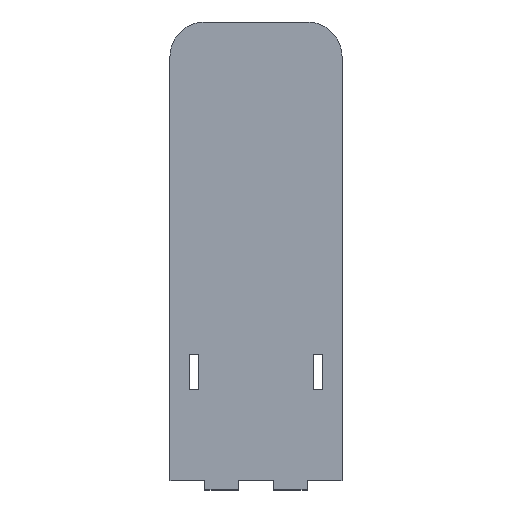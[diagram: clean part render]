
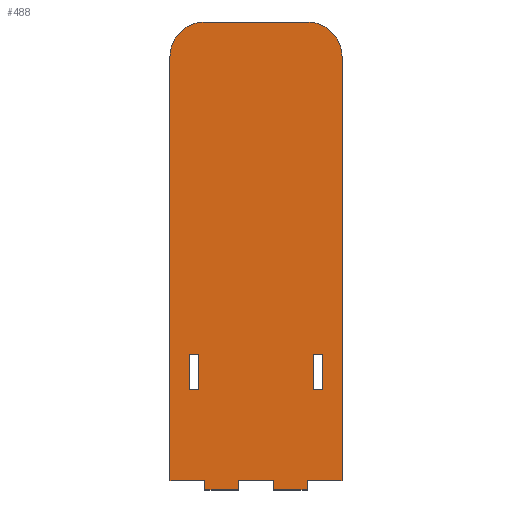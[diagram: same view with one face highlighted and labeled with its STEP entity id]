
A CAD part, top view. The second image highlights one B-rep face of the part: STEP entity #488.
In plain terms, the highlighted planar face has unit normal (0, 0, 1).
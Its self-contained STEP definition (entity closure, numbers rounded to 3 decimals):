
#17=FACE_BOUND('',#75,.T.);
#18=FACE_BOUND('',#76,.T.);
#19=CIRCLE('',#521,30.);
#22=CIRCLE('',#527,30.);
#48=FACE_OUTER_BOUND('',#74,.T.);
#74=EDGE_LOOP('',(#421,#422,#423,#424,#425,#426,#427,#428,#429,#430,#431,
#432,#433,#434));
#75=EDGE_LOOP('',(#435,#436,#437,#438));
#76=EDGE_LOOP('',(#439,#440,#441,#442));
#77=LINE('',#664,#139);
#81=LINE('',#672,#143);
#84=LINE('',#678,#146);
#87=LINE('',#683,#149);
#89=LINE('',#688,#151);
#93=LINE('',#696,#155);
#96=LINE('',#702,#158);
#99=LINE('',#707,#161);
#105=LINE('',#723,#167);
#119=LINE('',#756,#181);
#121=LINE('',#759,#183);
#122=LINE('',#762,#184);
#124=LINE('',#766,#186);
#126=LINE('',#770,#188);
#128=LINE('',#774,#190);
#130=LINE('',#778,#192);
#132=LINE('',#782,#194);
#134=LINE('',#786,#196);
#136=LINE('',#790,#198);
#138=LINE('',#793,#200);
#139=VECTOR('',#544,10.);
#143=VECTOR('',#550,10.);
#146=VECTOR('',#555,10.);
#149=VECTOR('',#560,10.);
#151=VECTOR('',#564,10.);
#155=VECTOR('',#570,10.);
#158=VECTOR('',#575,10.);
#161=VECTOR('',#580,10.);
#167=VECTOR('',#594,10.);
#181=VECTOR('',#618,10.);
#183=VECTOR('',#622,10.);
#184=VECTOR('',#625,10.);
#186=VECTOR('',#629,10.);
#188=VECTOR('',#633,10.);
#190=VECTOR('',#637,10.);
#192=VECTOR('',#641,10.);
#194=VECTOR('',#645,10.);
#196=VECTOR('',#649,10.);
#198=VECTOR('',#653,10.);
#200=VECTOR('',#657,10.);
#201=VERTEX_POINT('',#662);
#202=VERTEX_POINT('',#663);
#205=VERTEX_POINT('',#671);
#207=VERTEX_POINT('',#677);
#209=VERTEX_POINT('',#686);
#210=VERTEX_POINT('',#687);
#213=VERTEX_POINT('',#695);
#215=VERTEX_POINT('',#701);
#217=VERTEX_POINT('',#710);
#218=VERTEX_POINT('',#711);
#222=VERTEX_POINT('',#721);
#234=VERTEX_POINT('',#749);
#235=VERTEX_POINT('',#750);
#236=VERTEX_POINT('',#755);
#237=VERTEX_POINT('',#761);
#238=VERTEX_POINT('',#765);
#239=VERTEX_POINT('',#769);
#240=VERTEX_POINT('',#773);
#241=VERTEX_POINT('',#777);
#242=VERTEX_POINT('',#781);
#243=VERTEX_POINT('',#785);
#244=VERTEX_POINT('',#789);
#245=EDGE_CURVE('',#201,#202,#77,.T.);
#249=EDGE_CURVE('',#205,#201,#81,.T.);
#252=EDGE_CURVE('',#207,#205,#84,.T.);
#255=EDGE_CURVE('',#202,#207,#87,.T.);
#257=EDGE_CURVE('',#209,#210,#89,.T.);
#261=EDGE_CURVE('',#213,#209,#93,.T.);
#264=EDGE_CURVE('',#215,#213,#96,.T.);
#267=EDGE_CURVE('',#210,#215,#99,.T.);
#269=EDGE_CURVE('',#217,#218,#19,.T.);
#275=EDGE_CURVE('',#217,#222,#105,.T.);
#288=EDGE_CURVE('',#234,#235,#22,.T.);
#291=EDGE_CURVE('',#236,#235,#119,.T.);
#293=EDGE_CURVE('',#234,#218,#121,.T.);
#294=EDGE_CURVE('',#237,#236,#122,.T.);
#296=EDGE_CURVE('',#238,#237,#124,.T.);
#298=EDGE_CURVE('',#239,#238,#126,.T.);
#300=EDGE_CURVE('',#240,#239,#128,.T.);
#302=EDGE_CURVE('',#241,#240,#130,.T.);
#304=EDGE_CURVE('',#242,#241,#132,.T.);
#306=EDGE_CURVE('',#243,#242,#134,.T.);
#308=EDGE_CURVE('',#244,#243,#136,.T.);
#310=EDGE_CURVE('',#222,#244,#138,.T.);
#421=ORIENTED_EDGE('',*,*,#269,.F.);
#422=ORIENTED_EDGE('',*,*,#275,.T.);
#423=ORIENTED_EDGE('',*,*,#310,.T.);
#424=ORIENTED_EDGE('',*,*,#308,.T.);
#425=ORIENTED_EDGE('',*,*,#306,.T.);
#426=ORIENTED_EDGE('',*,*,#304,.T.);
#427=ORIENTED_EDGE('',*,*,#302,.T.);
#428=ORIENTED_EDGE('',*,*,#300,.T.);
#429=ORIENTED_EDGE('',*,*,#298,.T.);
#430=ORIENTED_EDGE('',*,*,#296,.T.);
#431=ORIENTED_EDGE('',*,*,#294,.T.);
#432=ORIENTED_EDGE('',*,*,#291,.T.);
#433=ORIENTED_EDGE('',*,*,#288,.F.);
#434=ORIENTED_EDGE('',*,*,#293,.T.);
#435=ORIENTED_EDGE('',*,*,#245,.T.);
#436=ORIENTED_EDGE('',*,*,#255,.T.);
#437=ORIENTED_EDGE('',*,*,#252,.T.);
#438=ORIENTED_EDGE('',*,*,#249,.T.);
#439=ORIENTED_EDGE('',*,*,#257,.T.);
#440=ORIENTED_EDGE('',*,*,#267,.T.);
#441=ORIENTED_EDGE('',*,*,#264,.T.);
#442=ORIENTED_EDGE('',*,*,#261,.T.);
#464=PLANE('',#539);
#488=ADVANCED_FACE('',(#48,#17,#18),#464,.T.);
#521=AXIS2_PLACEMENT_3D('',#712,#584,#585);
#527=AXIS2_PLACEMENT_3D('',#751,#612,#613);
#539=AXIS2_PLACEMENT_3D('',#794,#658,#659);
#544=DIRECTION('',(1.,0.,0.));
#550=DIRECTION('',(0.,1.,0.));
#555=DIRECTION('',(-1.,0.,0.));
#560=DIRECTION('',(0.,-1.,0.));
#564=DIRECTION('',(0.,1.,0.));
#570=DIRECTION('',(-1.,0.,0.));
#575=DIRECTION('',(0.,-1.,0.));
#580=DIRECTION('',(1.,0.,0.));
#584=DIRECTION('center_axis',(0.,0.,-1.));
#585=DIRECTION('ref_axis',(-0.707,0.707,0.));
#594=DIRECTION('',(0.,-1.,0.));
#612=DIRECTION('center_axis',(0.,0.,-1.));
#613=DIRECTION('ref_axis',(0.707,0.707,0.));
#618=DIRECTION('',(0.,1.,0.));
#622=DIRECTION('',(-1.,0.,0.));
#625=DIRECTION('',(1.,0.,0.));
#629=DIRECTION('',(0.,1.,0.));
#633=DIRECTION('',(1.,0.,0.));
#637=DIRECTION('',(0.,-1.,0.));
#641=DIRECTION('',(1.,0.,0.));
#645=DIRECTION('',(0.,1.,0.));
#649=DIRECTION('',(1.,0.,0.));
#653=DIRECTION('',(0.,-1.,0.));
#657=DIRECTION('',(1.,0.,0.));
#658=DIRECTION('center_axis',(0.,0.,1.));
#659=DIRECTION('ref_axis',(1.,0.,0.));
#662=CARTESIAN_POINT('',(50.,-86.,8.));
#663=CARTESIAN_POINT('',(58.2,-86.,8.));
#664=CARTESIAN_POINT('',(25.,-86.,8.));
#671=CARTESIAN_POINT('',(50.,-116.,8.));
#672=CARTESIAN_POINT('',(50.,-58.,8.));
#677=CARTESIAN_POINT('',(58.2,-116.,8.));
#678=CARTESIAN_POINT('',(29.1,-116.,8.));
#683=CARTESIAN_POINT('',(58.2,-43.,8.));
#686=CARTESIAN_POINT('',(-58.2,-116.,8.));
#687=CARTESIAN_POINT('',(-58.2,-86.,8.));
#688=CARTESIAN_POINT('',(-58.2,-58.,8.));
#695=CARTESIAN_POINT('',(-50.,-116.,8.));
#696=CARTESIAN_POINT('',(-25.,-116.,8.));
#701=CARTESIAN_POINT('',(-50.,-86.,8.));
#702=CARTESIAN_POINT('',(-50.,-43.,8.));
#707=CARTESIAN_POINT('',(-29.1,-86.,8.));
#710=CARTESIAN_POINT('',(-75.,174.,8.));
#711=CARTESIAN_POINT('',(-45.,204.,8.));
#712=CARTESIAN_POINT('Origin',(-45.,174.,8.));
#721=CARTESIAN_POINT('',(-75.,-196.,8.));
#723=CARTESIAN_POINT('',(-75.,204.,8.));
#749=CARTESIAN_POINT('',(45.,204.,8.));
#750=CARTESIAN_POINT('',(75.,174.,8.));
#751=CARTESIAN_POINT('Origin',(45.,174.,8.));
#755=CARTESIAN_POINT('',(75.,-196.,8.));
#756=CARTESIAN_POINT('',(75.,-204.,8.));
#759=CARTESIAN_POINT('',(75.,204.,8.));
#761=CARTESIAN_POINT('',(44.5,-196.,8.));
#762=CARTESIAN_POINT('',(15.,-196.,8.));
#765=CARTESIAN_POINT('',(44.5,-204.,8.));
#766=CARTESIAN_POINT('',(44.5,-204.,8.));
#769=CARTESIAN_POINT('',(15.5,-204.,8.));
#770=CARTESIAN_POINT('',(-75.,-204.,8.));
#773=CARTESIAN_POINT('',(15.5,-196.,8.));
#774=CARTESIAN_POINT('',(15.5,-196.,8.));
#777=CARTESIAN_POINT('',(-15.5,-196.,8.));
#778=CARTESIAN_POINT('',(-45.,-196.,8.));
#781=CARTESIAN_POINT('',(-15.5,-204.,8.));
#782=CARTESIAN_POINT('',(-15.5,-204.,8.));
#785=CARTESIAN_POINT('',(-44.5,-204.,8.));
#786=CARTESIAN_POINT('',(-75.,-204.,8.));
#789=CARTESIAN_POINT('',(-44.5,-196.,8.));
#790=CARTESIAN_POINT('',(-44.5,-196.,8.));
#793=CARTESIAN_POINT('',(-75.,-196.,8.));
#794=CARTESIAN_POINT('Origin',(0.,0.,8.));
